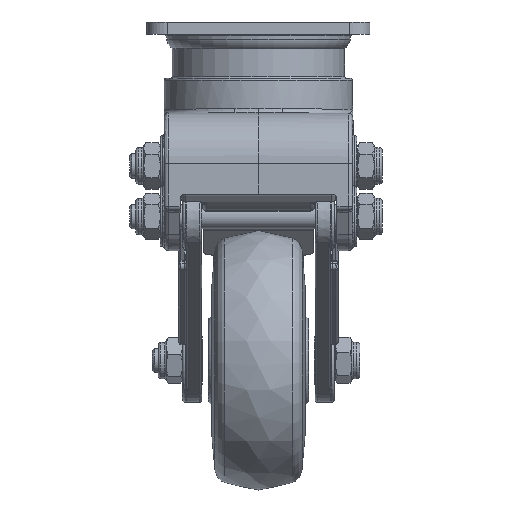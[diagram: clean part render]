
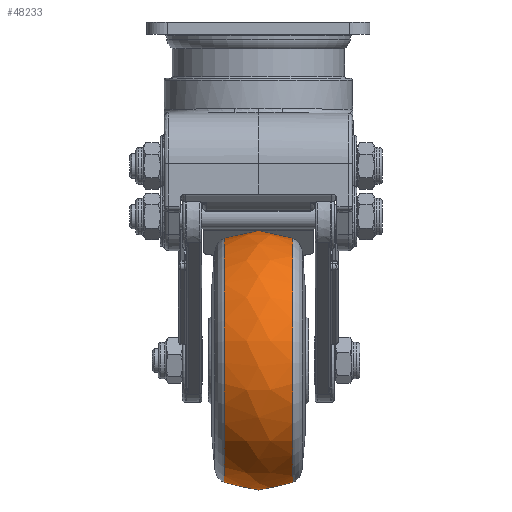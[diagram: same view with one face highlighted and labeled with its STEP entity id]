
A CAD part, left-side view. The second image highlights one B-rep face of the part: STEP entity #48233.
In plain terms, the highlighted free-form (B-spline) face has degree [2, 2] with [3, 9] control points.
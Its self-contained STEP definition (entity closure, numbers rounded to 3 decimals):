
#18=(
BOUNDED_SURFACE()
B_SPLINE_SURFACE(2,2,((#92811,#92812,#92813,#92814,#92815,#92816,#92817,
#92818,#92819),(#92820,#92821,#92822,#92823,#92824,#92825,#92826,#92827,
#92828),(#92829,#92830,#92831,#92832,#92833,#92834,#92835,#92836,#92837)),
 .UNSPECIFIED.,.F.,.T.,.F.)
B_SPLINE_SURFACE_WITH_KNOTS((3,3),(3,2,2,2,3),(-0.438,0.438),
(-3.142,-1.571,0.,1.571,3.142),
 .UNSPECIFIED.)
GEOMETRIC_REPRESENTATION_ITEM()
RATIONAL_B_SPLINE_SURFACE(((1.,0.707,1.,0.707,1.,
0.707,1.,0.707,1.),(0.906,0.64,
0.906,0.64,0.906,0.64,
0.906,0.64,0.906),(1.,0.707,
1.,0.707,1.,0.707,1.,0.707,1.)))
REPRESENTATION_ITEM('')
SURFACE()
);
#5466=CIRCLE('',#51948,30.112);
#5467=CIRCLE('',#51949,30.112);
#5478=CIRCLE('',#51966,30.112);
#5479=CIRCLE('',#51967,30.112);
#5481=CIRCLE('',#51969,20.);
#8154=FACE_OUTER_BOUND('',#10978,.T.);
#10978=EDGE_LOOP('',(#41920,#41921,#41922,#41923,#41924,#41925));
#21617=VERTEX_POINT('',#92772);
#21618=VERTEX_POINT('',#92774);
#21629=VERTEX_POINT('',#92806);
#21630=VERTEX_POINT('',#92807);
#28385=EDGE_CURVE('',#21617,#21618,#5466,.T.);
#28386=EDGE_CURVE('',#21618,#21617,#5467,.T.);
#28400=EDGE_CURVE('',#21629,#21630,#5478,.T.);
#28401=EDGE_CURVE('',#21630,#21629,#5479,.T.);
#28403=EDGE_CURVE('',#21617,#21630,#5481,.T.);
#41920=ORIENTED_EDGE('',*,*,#28386,.F.);
#41921=ORIENTED_EDGE('',*,*,#28385,.F.);
#41922=ORIENTED_EDGE('',*,*,#28403,.T.);
#41923=ORIENTED_EDGE('',*,*,#28401,.T.);
#41924=ORIENTED_EDGE('',*,*,#28400,.T.);
#41925=ORIENTED_EDGE('',*,*,#28403,.F.);
#48233=ADVANCED_FACE('',(#8154),#18,.F.);
#51948=AXIS2_PLACEMENT_3D('',#92775,#62557,#62558);
#51949=AXIS2_PLACEMENT_3D('',#92776,#62559,#62560);
#51966=AXIS2_PLACEMENT_3D('',#92808,#62596,#62597);
#51967=AXIS2_PLACEMENT_3D('',#92809,#62598,#62599);
#51969=AXIS2_PLACEMENT_3D('',#92838,#62602,#62603);
#62557=DIRECTION('center_axis',(0.,-1.,0.));
#62558=DIRECTION('ref_axis',(-0.325,0.,-0.946));
#62559=DIRECTION('center_axis',(0.,-1.,0.));
#62560=DIRECTION('ref_axis',(-0.325,0.,-0.946));
#62596=DIRECTION('center_axis',(0.,-1.,0.));
#62597=DIRECTION('ref_axis',(-0.325,0.,-0.946));
#62598=DIRECTION('center_axis',(0.,-1.,0.));
#62599=DIRECTION('ref_axis',(-0.325,0.,-0.946));
#62602=DIRECTION('center_axis',(-0.946,0.,
0.325));
#62603=DIRECTION('ref_axis',(0.325,0.,0.946));
#92772=CARTESIAN_POINT('',(22.419,-11.304,-45.166));
#92774=CARTESIAN_POINT('',(2.855,-11.304,-102.124));
#92775=CARTESIAN_POINT('Origin',(12.637,-11.304,-73.645));
#92776=CARTESIAN_POINT('Origin',(12.637,-11.304,-73.645));
#92806=CARTESIAN_POINT('',(2.855,5.66,-102.124));
#92807=CARTESIAN_POINT('',(22.419,5.66,-45.166));
#92808=CARTESIAN_POINT('Origin',(12.637,5.66,-73.645));
#92809=CARTESIAN_POINT('Origin',(12.637,5.66,-73.645));
#92811=CARTESIAN_POINT('Ctrl Pts',(22.419,5.66,-45.166));
#92812=CARTESIAN_POINT('Ctrl Pts',(-6.06,5.66,-35.384));
#92813=CARTESIAN_POINT('Ctrl Pts',(-15.842,5.66,-63.863));
#92814=CARTESIAN_POINT('Ctrl Pts',(-25.624,5.66,-92.342));
#92815=CARTESIAN_POINT('Ctrl Pts',(2.855,5.66,-102.124));
#92816=CARTESIAN_POINT('Ctrl Pts',(31.334,5.66,-111.906));
#92817=CARTESIAN_POINT('Ctrl Pts',(41.116,5.66,-83.427));
#92818=CARTESIAN_POINT('Ctrl Pts',(50.898,5.66,-54.948));
#92819=CARTESIAN_POINT('Ctrl Pts',(22.419,5.66,-45.166));
#92820=CARTESIAN_POINT('Ctrl Pts',(23.71,-2.822,-41.409));
#92821=CARTESIAN_POINT('Ctrl Pts',(-8.526,-2.822,
-30.337));
#92822=CARTESIAN_POINT('Ctrl Pts',(-19.599,-2.822,
-62.572));
#92823=CARTESIAN_POINT('Ctrl Pts',(-30.671,-2.822,
-94.808));
#92824=CARTESIAN_POINT('Ctrl Pts',(1.564,-2.822,-105.881));
#92825=CARTESIAN_POINT('Ctrl Pts',(33.8,-2.822,-116.954));
#92826=CARTESIAN_POINT('Ctrl Pts',(44.873,-2.822,-84.718));
#92827=CARTESIAN_POINT('Ctrl Pts',(55.946,-2.822,-52.482));
#92828=CARTESIAN_POINT('Ctrl Pts',(23.71,-2.822,-41.409));
#92829=CARTESIAN_POINT('Ctrl Pts',(22.419,-11.304,-45.166));
#92830=CARTESIAN_POINT('Ctrl Pts',(-6.06,-11.304,
-35.384));
#92831=CARTESIAN_POINT('Ctrl Pts',(-15.842,-11.304,
-63.863));
#92832=CARTESIAN_POINT('Ctrl Pts',(-25.624,-11.304,
-92.342));
#92833=CARTESIAN_POINT('Ctrl Pts',(2.855,-11.304,-102.124));
#92834=CARTESIAN_POINT('Ctrl Pts',(31.334,-11.304,-111.906));
#92835=CARTESIAN_POINT('Ctrl Pts',(41.116,-11.304,-83.427));
#92836=CARTESIAN_POINT('Ctrl Pts',(50.898,-11.304,-54.948));
#92837=CARTESIAN_POINT('Ctrl Pts',(22.419,-11.304,-45.166));
#92838=CARTESIAN_POINT('Origin',(16.535,-2.822,-62.296));
